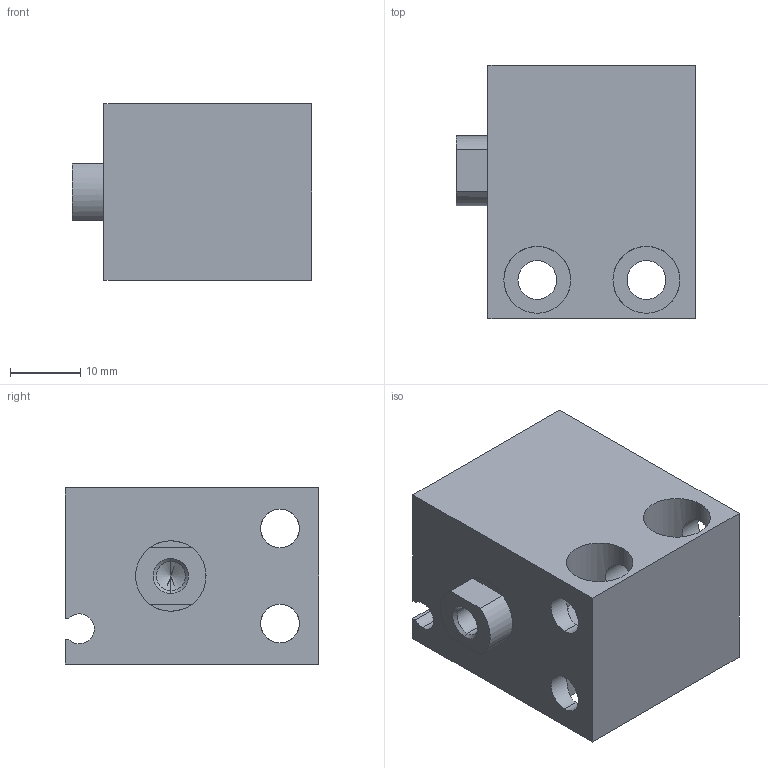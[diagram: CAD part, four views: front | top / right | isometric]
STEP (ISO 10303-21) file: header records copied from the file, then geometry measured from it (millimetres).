
FILE_DESCRIPTION (( 'STEP AP203' ), '1' );
FILE_NAME ('CLJB20-10.STEP', '2020-07-30T19:25:45', ( '' ), ( '' ), 'SwSTEP 2.0', 'SolidWorks 2019', '' );
FILE_SCHEMA (( 'CONFIG_CONTROL_DESIGN' ));
Length unit declared in the file: millimetre
Products named in the file (1): CLJB20-10
Bounding box: 34 x 36 x 25 mm (x, y, z)
Volume: 20455 mm3; surface area: 10005 mm2
Topology: 2 solids, 2 shells, 75 faces, 188 edges, 113 vertices
Faces by surface type: cylinder 41, plane 22, cone 12
Entity records: 3255 total; most frequent: CARTESIAN_POINT 1359, DIRECTION 394, ORIENTED_EDGE 364, EDGE_CURVE 182, AXIS2_PLACEMENT_3D 152, VERTEX_POINT 113, EDGE_LOOP 93, LINE 90
